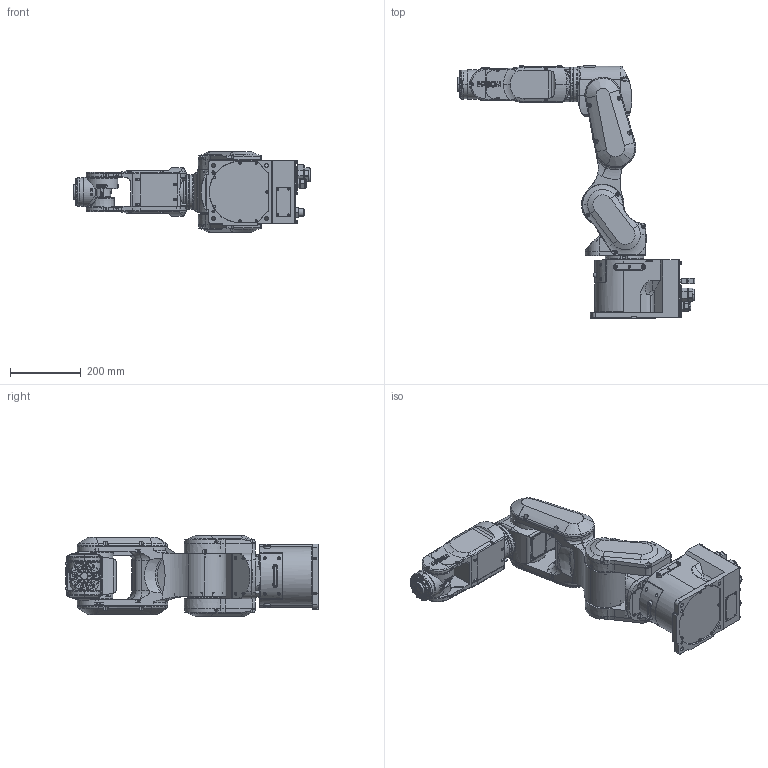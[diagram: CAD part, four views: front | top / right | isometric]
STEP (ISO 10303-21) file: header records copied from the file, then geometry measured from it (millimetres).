
FILE_DESCRIPTION (( 'STEP AP214' ), '1' );
FILE_NAME ('CX7-x701CN.STEP', '2026-07-24T16:41:23', ( '' ), ( '' ), 'SwSTEP 2.0', 'SolidWorks 2020', '' );
FILE_SCHEMA (( 'AUTOMOTIVE_DESIGN' ));
Length unit declared in the file: millimetre
Products named in the file (8): CX7-A701C-NIW_J5; CX7-A701C-NIW_J3; CX7-A701C-NIW_J6; CX7-A701C-NIW_J1; CX7-x701CN; CX7-A701C-NIW_J4; CX7-A701C-NIW_BASE; CX7-A701C-NIW_J2
Assembly tree (7 placements, depth 2):
  CX7-x701CN
    CX7-A701C-NIW_BASE
    CX7-A701C-NIW_J1
    CX7-A701C-NIW_J2
    CX7-A701C-NIW_J3
    CX7-A701C-NIW_J4
    CX7-A701C-NIW_J5
    CX7-A701C-NIW_J6
Bounding box: 672 x 712 x 228 mm (x, y, z)
Volume: 7848324.4 mm3; surface area: 1082607.7 mm2
Topology: 4 solids, 9 shells, 3500 faces, 8733 edges, 5411 vertices
Faces by surface type: plane 1186, cylinder 1168, cone 684, torus 323, sphere 89, bspline 50
Entity records: 160691 total; most frequent: CARTESIAN_POINT 70875, ORIENTED_EDGE 17148, DIRECTION 11709, EDGE_CURVE 8583, B_SPLINE_CURVE_WITH_KNOTS 5435, VERTEX_POINT 5411, AXIS2_PLACEMENT_3D 5122, EDGE_LOOP 3838
